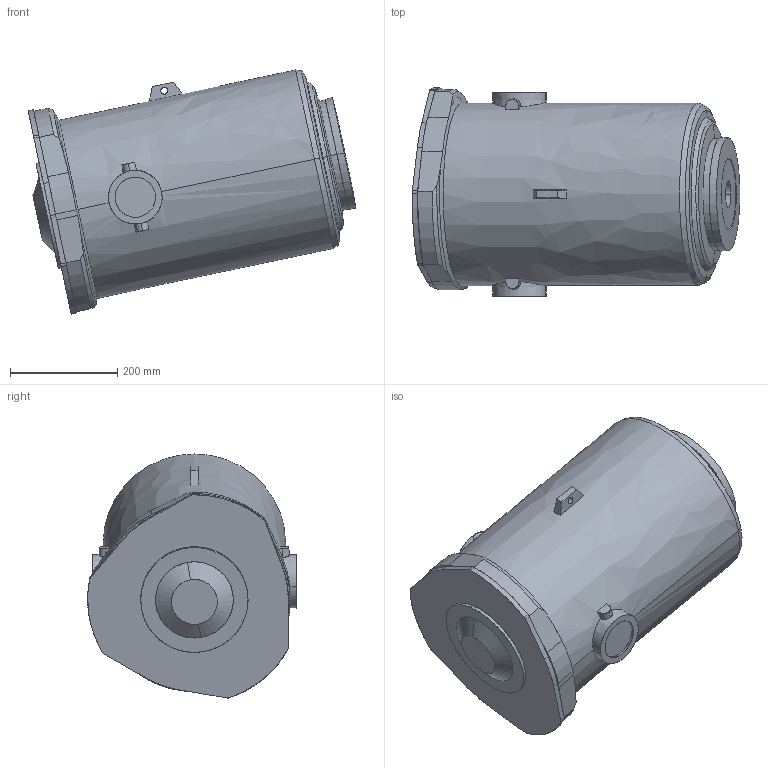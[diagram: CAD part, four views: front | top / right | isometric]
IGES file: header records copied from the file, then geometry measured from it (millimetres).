
Start section: SolidWorks IGES file using analytic representation for surfaces
Global section: file name: B:\Robotics\SEROP_PROJ\Product Development\DevelopmentProjects\RobCal\Design\CAD simuleringsmodeller\Till_RobotStudio\IRB6700-HL\IRB6700_235-265_IRC5_rev02\IRB6700_235-265_IRC5_rev02_IGES_j\IRB6700_235-265_IRC5_rev06_CYLINDER_CAD.IGS; native system: SolidWorks 2014; preprocessor: SolidWorks 2014; author: SEEMTHE; date: 160127.112349; units: millimetre
Bounding box: 610.79 x 389 x 454.93 mm (x, y, z)
Surface area: 897137 mm2 (no closed solid volume)
Topology: 0 solids, 0 shells, 117 faces, 2148 edges, 2148 vertices
Faces by surface type: revolution 72, bspline 45
